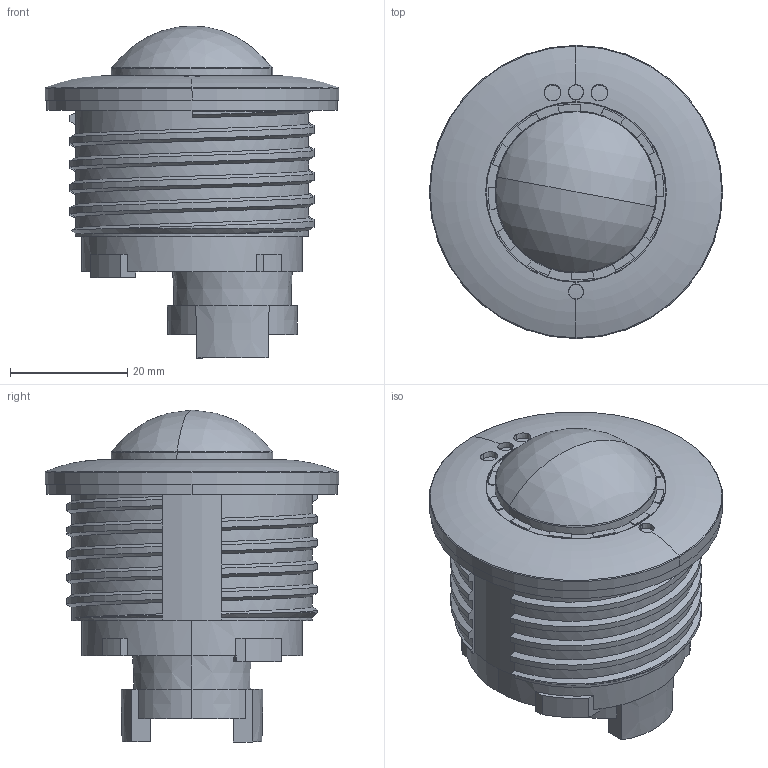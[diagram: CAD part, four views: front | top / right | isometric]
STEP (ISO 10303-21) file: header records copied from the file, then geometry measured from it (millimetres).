
FILE_DESCRIPTION (( 'STEP AP214' ), '1' );
FILE_NAME ('20.104.564-01 Mx-ONE-SMA-12DN016.STEP', '2026-09-21T07:44:23', ( '' ), ( '' ), 'SwSTEP 2.0', 'SolidWorks 2025', '' );
FILE_SCHEMA (( 'AUTOMOTIVE_DESIGN' ));
Length unit declared in the file: millimetre
Products named in the file (1): 20.104.564-01 Mx-ONE-SMA-12DN016
Bounding box: 50 x 50 x 56.61 mm (x, y, z)
Volume: 53209.7 mm3; surface area: 10821.7 mm2
Topology: 1 solids, 1 shells, 204 faces, 567 edges, 375 vertices
Faces by surface type: plane 83, cylinder 38, cone 35, bspline 34, torus 12, sphere 2
Entity records: 20563 total; most frequent: CARTESIAN_POINT 15800, ORIENTED_EDGE 1134, DIRECTION 843, EDGE_CURVE 567, VERTEX_POINT 375, AXIS2_PLACEMENT_3D 318, EDGE_LOOP 214, LINE 207
